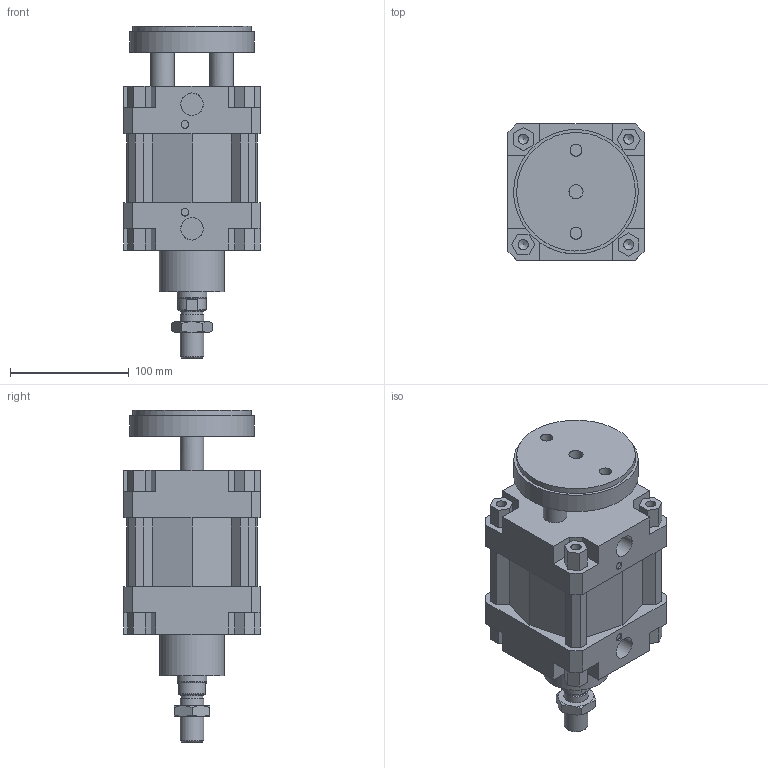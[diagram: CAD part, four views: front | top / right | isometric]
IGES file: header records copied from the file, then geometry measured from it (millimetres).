
Global section: file name: 132#_100_0000_02; native system: Autodesk Inventor 2014; preprocessor: unknown; author: A. Manieri; date: 20161006.163552; units: millimetre
Bounding box: 115 x 115 x 280 mm (x, y, z)
Volume: 1875069.2 mm3; surface area: 236715.2 mm2
Topology: 3 solids, 3 shells, 220 faces, 589 edges, 397 vertices
Faces by surface type: bspline 220
